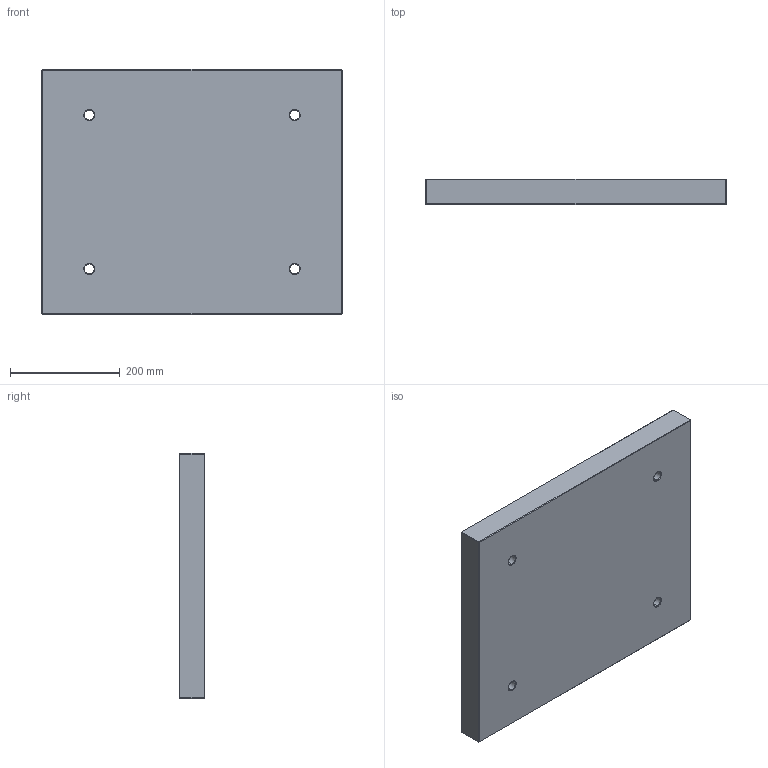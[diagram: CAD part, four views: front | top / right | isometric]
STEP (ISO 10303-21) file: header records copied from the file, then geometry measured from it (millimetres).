
FILE_DESCRIPTION (( 'STEP AP214' ), '1' );
FILE_NAME ('446x446x46.STEP', '2020-03-09T17:59:41', ( 'August' ), ( '' ), 'SwSTEP 2.0', 'SolidWorks 2018', '' );
FILE_SCHEMA (( 'AUTOMOTIVE_DESIGN' ));
Length unit declared in the file: millimetre
Products named in the file (1): 446x446x46
Bounding box: 546 x 46 x 446 mm (x, y, z)
Volume: 11132653.1 mm3; surface area: 585726.1 mm2
Topology: 1 solids, 1 shells, 62 faces, 128 edges, 72 vertices
Faces by surface type: plane 30, cone 16, cylinder 16
Entity records: 1650 total; most frequent: DIRECTION 302, CARTESIAN_POINT 263, ORIENTED_EDGE 256, EDGE_CURVE 128, AXIS2_PLACEMENT_3D 111, VECTOR 80, LINE 80, EDGE_LOOP 74
